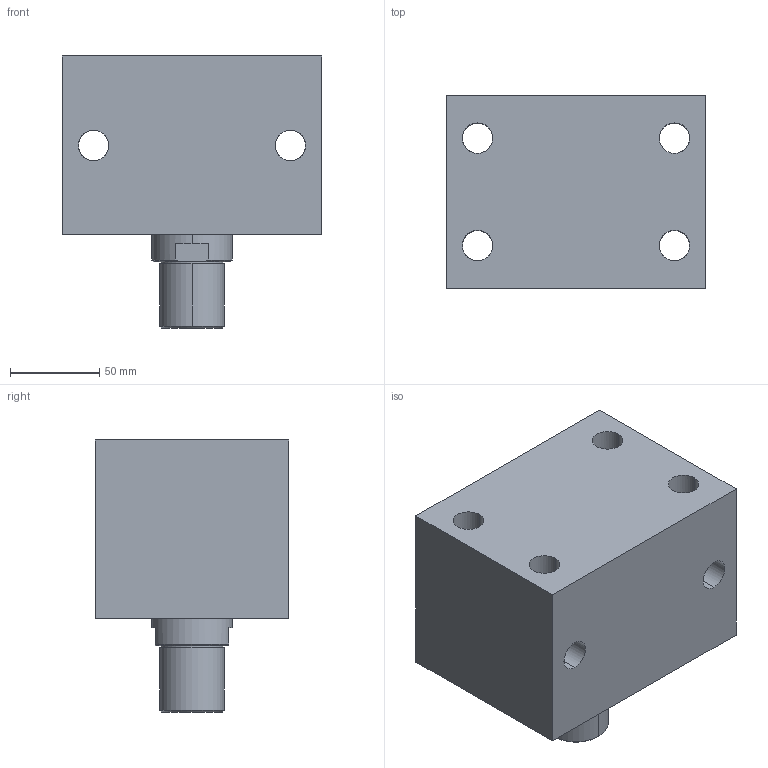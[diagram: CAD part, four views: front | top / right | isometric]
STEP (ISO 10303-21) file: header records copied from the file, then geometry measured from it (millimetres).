
FILE_DESCRIPTION (( 'STEP AP203' ), '1' );
FILE_NAME ('Block cylinder B01C-725M.STEP', '2022-07-09T18:16:37', ( '' ), ( '' ), 'SwSTEP 2.0', 'SolidWorks 2017', '' );
FILE_SCHEMA (( 'CONFIG_CONTROL_DESIGN' ));
Length unit declared in the file: millimetre
Products named in the file (3): Body_ 725M_50ST; Piston _725M; Block cylinder B01C-725M
Assembly tree (2 placements, depth 2):
  Block cylinder B01C-725M
    Body_ 725M_50ST
    Piston _725M
Bounding box: 145 x 108 x 152 mm (x, y, z)
Volume: 1645255.4 mm3; surface area: 142094 mm2
Topology: 2 solids, 2 shells, 349 faces, 954 edges, 624 vertices
Faces by surface type: plane 153, bspline 142, cylinder 46, cone 8
Entity records: 17085 total; most frequent: CARTESIAN_POINT 8958, ORIENTED_EDGE 1900, DIRECTION 1122, EDGE_CURVE 950, VERTEX_POINT 624, LINE 562, VECTOR 562, EDGE_LOOP 388
